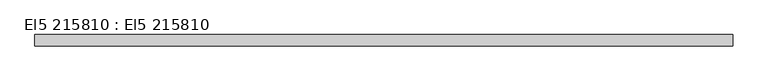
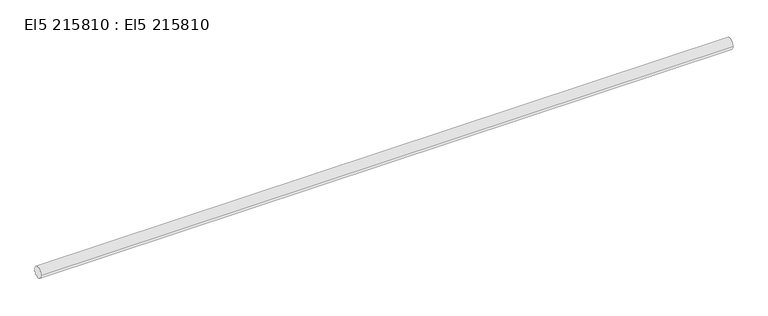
"""IFC4 building model written with IfcOpenShell, lengths in millimetres: cable carrier segment geometry, El5 215810 : El5 215810."""

from ifc_helpers import new_model, si_unit, point, frame, frame_2d, origin, place, context, project, spatial, circle_curve, trimmed, segment, composite_curve, outline, extrude, source, transform, mapped, element, save


def el5_215810_el5_215810_1b012be9(model_context):
    return source(origin(), model_context, "Body", "SweptSolid", [
        extrude(outline(composite_curve([segment(trimmed(circle_curve(frame_2d((17022.1, 4200.0)), 9.5), [point((17012.6, 4200.0))], [point((17031.6, 4200.0))], False, "CARTESIAN"), True, "CONTINUOUS"), segment(trimmed(circle_curve(frame_2d((17022.1, 4200.0)), 9.5), [point((17031.6, 4200.0))], [point((17012.6, 4200.0))], False, "CARTESIAN"), True, "CONTINUOUS")], self_intersect=False)), frame((12505.0, 0.0, 0.0), z_axis=(1.0, 0.0, 0.0), x_axis=(0.0, 1.0, 0.0)), (0.0, 0.0, 1.0), 1180.0),
    ])


if __name__ == "__main__":
    model = new_model("IFC4")
    model_context = context("Model", 3, world=origin())
    ifc_project = project(units=[si_unit("LENGTHUNIT", "METRE", prefix="MILLI")], contexts=[model_context])
    site = spatial("IfcSite", under=ifc_project)
    building = spatial("IfcBuilding", under=site)
    placement = place(None, origin())
    el5_215810_el5_215810_shape = el5_215810_el5_215810_1b012be9(model_context)
    element("IfcCableCarrierSegment", 1, ObjectType="El5 215810 : El5 215810", at=placement, inside=building, context=model_context, shape_type="MappedRepresentation", body=[
        mapped(el5_215810_el5_215810_shape, transform((0.0, 0.0, 0.0), x_axis=(1.0, 0.0, 0.0), y_axis=(0.0, 1.0, 0.0), z_axis=(0.0, 0.0, 1.0))),
    ])
    save(model, "model.ifc")
